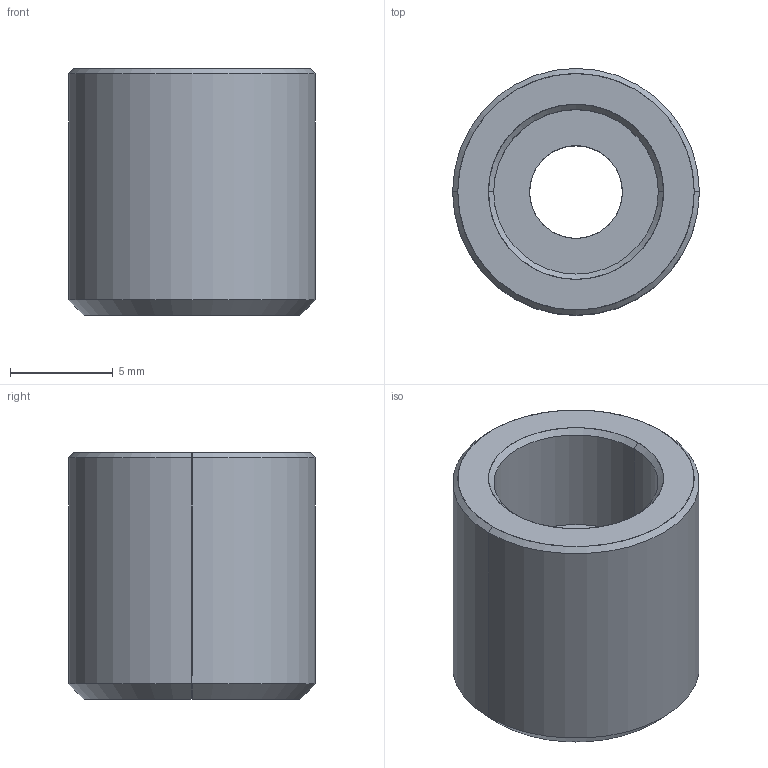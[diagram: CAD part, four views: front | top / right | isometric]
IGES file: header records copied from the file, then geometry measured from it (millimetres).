
Start section: SolidWorks IGES file using analytic representation for surfaces
Global section: file name: X:\11_SW2020-Inv2020\00_全2021-11新製品まで\s\SRP-122-C-DS\srp-122-c-ds.IGS; native system: SolidWorks 2020; preprocessor: SolidWorks 2020; author: ImaoCorp; date: 211025.132837; units: millimetre
Bounding box: 12 x 12 x 12 mm (x, y, z)
Surface area: 848.9 mm2 (no closed solid volume)
Topology: 0 solids, 0 shells, 17 faces, 248 edges, 248 vertices
Faces by surface type: revolution 14, bspline 3
